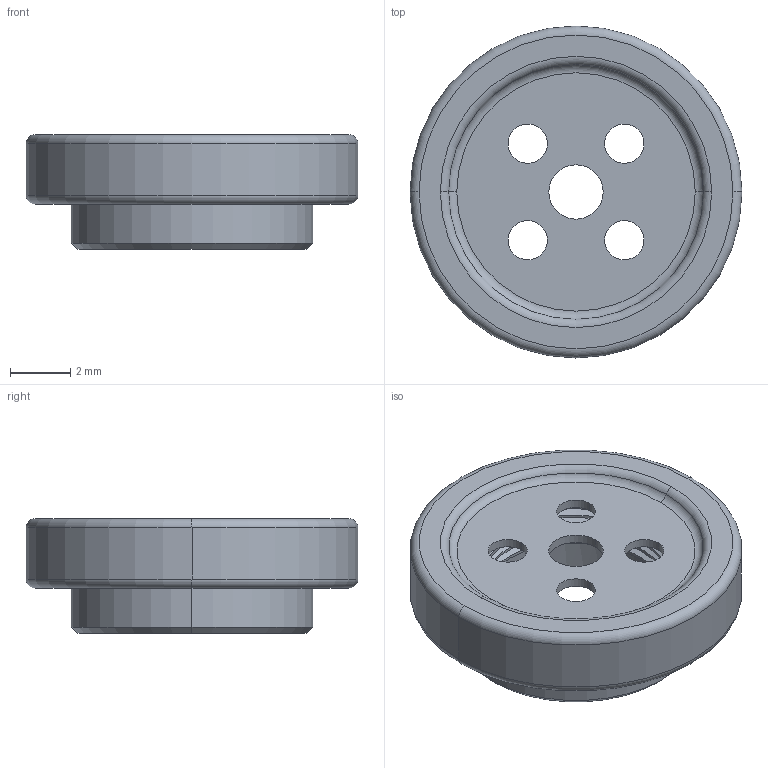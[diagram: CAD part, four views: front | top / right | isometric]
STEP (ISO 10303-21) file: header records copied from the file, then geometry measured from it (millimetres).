
FILE_DESCRIPTION (( 'STEP AP214' ), '1' );
FILE_NAME ('Bouton Jicam 11mm.STEP', '2016-02-12T14:15:48', ( 'ENTREE' ), ( '' ), 'SwSTEP 2.0', 'SolidWorks 2012', '' );
FILE_SCHEMA (( 'AUTOMOTIVE_DESIGN' ));
Length unit declared in the file: millimetre
Products named in the file (1): Bouton Jicam 11mm
Bounding box: 11 x 11 x 3.8 mm (x, y, z)
Volume: 168.7 mm3; surface area: 369.8 mm2
Topology: 1 solids, 1 shells, 47 faces, 114 edges, 72 vertices
Faces by surface type: cylinder 25, torus 8, plane 8, cone 4, bspline 2
Entity records: 1808 total; most frequent: CARTESIAN_POINT 670, DIRECTION 242, ORIENTED_EDGE 228, EDGE_CURVE 114, AXIS2_PLACEMENT_3D 105, VERTEX_POINT 72, EDGE_LOOP 60, CIRCLE 59
